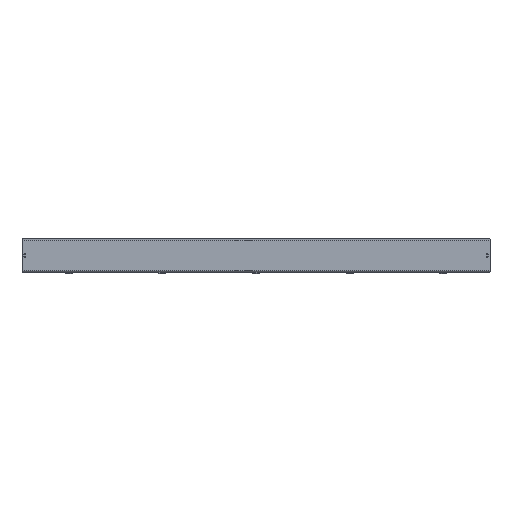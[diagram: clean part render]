
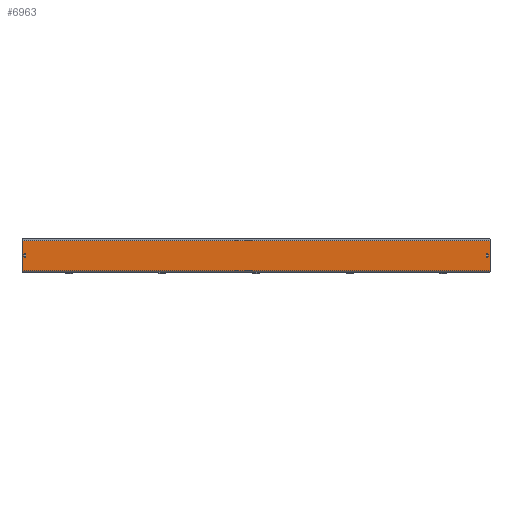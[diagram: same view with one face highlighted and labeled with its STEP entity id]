
A CAD part, front view. The second image highlights one B-rep face of the part: STEP entity #6963.
In plain terms, the highlighted planar face has unit normal (0, -1, 0).
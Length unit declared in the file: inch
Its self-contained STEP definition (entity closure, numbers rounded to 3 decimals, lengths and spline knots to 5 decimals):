
#47 = CARTESIAN_POINT ( 'NONE',  ( -30., 0., -1.94 ) ) ;
#97 = LINE ( 'NONE', #11236, #2271 ) ;
#174 = FACE_BOUND ( 'NONE', #7216, .T. ) ;
#220 = VERTEX_POINT ( 'NONE', #47 ) ;
#353 = DIRECTION ( 'NONE',  ( 0., 0., -1. ) ) ;
#389 = VECTOR ( 'NONE', #6444, 39.37008 ) ;
#404 = AXIS2_PLACEMENT_3D ( 'NONE', #2759, #9937, #9072 ) ;
#539 = DIRECTION ( 'NONE',  ( 0., 1., 0. ) ) ;
#754 = EDGE_CURVE ( 'NONE', #1841, #10367, #11724, .T. ) ;
#814 = CARTESIAN_POINT ( 'NONE',  ( 30., 0., -1.94 ) ) ;
#823 = AXIS2_PLACEMENT_3D ( 'NONE', #1280, #5001, #3151 ) ;
#834 = EDGE_CURVE ( 'NONE', #3400, #1881, #6683, .T. ) ;
#975 = CARTESIAN_POINT ( 'NONE',  ( -30., 0., 2.075 ) ) ;
#1098 = EDGE_CURVE ( 'NONE', #10367, #8586, #10043, .T. ) ;
#1280 = CARTESIAN_POINT ( 'NONE',  ( 29.625, 0., -0.09375 ) ) ;
#1412 = CARTESIAN_POINT ( 'NONE',  ( 29.625, 0., 0.09375 ) ) ;
#1778 = CARTESIAN_POINT ( 'NONE',  ( -29.5, 0., 0.09375 ) ) ;
#1841 = VERTEX_POINT ( 'NONE', #8559 ) ;
#1854 = AXIS2_PLACEMENT_3D ( 'NONE', #2835, #9146, #3747 ) ;
#1881 = VERTEX_POINT ( 'NONE', #6496 ) ;
#2017 = LINE ( 'NONE', #1778, #11332 ) ;
#2271 = VECTOR ( 'NONE', #353, 39.37008 ) ;
#2354 = DIRECTION ( 'NONE',  ( 0., 0., -1. ) ) ;
#2593 = LINE ( 'NONE', #6784, #9234 ) ;
#2759 = CARTESIAN_POINT ( 'NONE',  ( -29.625, 0., -0.09375 ) ) ;
#2835 = CARTESIAN_POINT ( 'NONE',  ( -29.625, 0., 0.09375 ) ) ;
#2865 = VERTEX_POINT ( 'NONE', #9516 ) ;
#3026 = ORIENTED_EDGE ( 'NONE', *, *, #9592, .T. ) ;
#3151 = DIRECTION ( 'NONE',  ( 0., 0., -1. ) ) ;
#3245 = CARTESIAN_POINT ( 'NONE',  ( -29.5, 0., -0.09375 ) ) ;
#3365 = DIRECTION ( 'NONE',  ( 0., 0., 1. ) ) ;
#3400 = VERTEX_POINT ( 'NONE', #3245 ) ;
#3537 = VERTEX_POINT ( 'NONE', #3563 ) ;
#3563 = CARTESIAN_POINT ( 'NONE',  ( -29.5, 0., 0.09375 ) ) ;
#3704 = CARTESIAN_POINT ( 'NONE',  ( 29.5, 0., 0.09375 ) ) ;
#3747 = DIRECTION ( 'NONE',  ( 0., 0., 1. ) ) ;
#3757 = DIRECTION ( 'NONE',  ( 0., 0., 1. ) ) ;
#4350 = ORIENTED_EDGE ( 'NONE', *, *, #8024, .T. ) ;
#4455 = LINE ( 'NONE', #11261, #6583 ) ;
#4482 = DIRECTION ( 'NONE',  ( 0., 0., -1. ) ) ;
#4521 = EDGE_CURVE ( 'NONE', #8112, #10890, #4455, .T. ) ;
#4692 = LINE ( 'NONE', #9909, #6810 ) ;
#4738 = CARTESIAN_POINT ( 'NONE',  ( -30., 0., 1.94 ) ) ;
#4740 = EDGE_CURVE ( 'NONE', #8728, #2865, #9102, .T. ) ;
#4766 = FACE_OUTER_BOUND ( 'NONE', #8665, .T. ) ;
#5001 = DIRECTION ( 'NONE',  ( 0., 1., 0. ) ) ;
#5009 = ORIENTED_EDGE ( 'NONE', *, *, #1098, .T. ) ;
#5292 = CARTESIAN_POINT ( 'NONE',  ( 30., 0., 1.94 ) ) ;
#5347 = DIRECTION ( 'NONE',  ( 0., -1., 0. ) ) ;
#5992 = LINE ( 'NONE', #814, #10462 ) ;
#6022 = CARTESIAN_POINT ( 'NONE',  ( -29.625, 0., 0.09375 ) ) ;
#6067 = VERTEX_POINT ( 'NONE', #4738 ) ;
#6070 = CARTESIAN_POINT ( 'NONE',  ( 30., 0., -1.94 ) ) ;
#6071 = ORIENTED_EDGE ( 'NONE', *, *, #8806, .F. ) ;
#6112 = ORIENTED_EDGE ( 'NONE', *, *, #6504, .T. ) ;
#6141 = CIRCLE ( 'NONE', #1854, 0.125 ) ;
#6239 = ORIENTED_EDGE ( 'NONE', *, *, #11082, .T. ) ;
#6444 = DIRECTION ( 'NONE',  ( 0., 0., 1. ) ) ;
#6451 = DIRECTION ( 'NONE',  ( 0., 0., -1. ) ) ;
#6496 = CARTESIAN_POINT ( 'NONE',  ( -29.75, 0., -0.09375 ) ) ;
#6504 = EDGE_CURVE ( 'NONE', #10890, #6067, #4692, .T. ) ;
#6529 = DIRECTION ( 'NONE',  ( 0., 1., 0. ) ) ;
#6566 = CARTESIAN_POINT ( 'NONE',  ( 29.625, 0., 0.09375 ) ) ;
#6583 = VECTOR ( 'NONE', #3365, 39.37008 ) ;
#6683 = CIRCLE ( 'NONE', #404, 0.125 ) ;
#6702 = ORIENTED_EDGE ( 'NONE', *, *, #11245, .T. ) ;
#6748 = ORIENTED_EDGE ( 'NONE', *, *, #7748, .F. ) ;
#6784 = CARTESIAN_POINT ( 'NONE',  ( -29.75, 0., 0.09375 ) ) ;
#6810 = VECTOR ( 'NONE', #8978, 39.37008 ) ;
#6896 = ORIENTED_EDGE ( 'NONE', *, *, #4740, .T. ) ;
#6918 = DIRECTION ( 'NONE',  ( 0., 0., 1. ) ) ;
#6934 = EDGE_LOOP ( 'NONE', ( #11376, #6239, #8836, #7049, #6702 ) ) ;
#6963 = ADVANCED_FACE ( 'NONE', ( #174, #9269, #4766 ), #7158, .T. ) ;
#7033 = CARTESIAN_POINT ( 'NONE',  ( 29.625, 0., 0.21875 ) ) ;
#7038 = CARTESIAN_POINT ( 'NONE',  ( 29.5, 0., -0.09375 ) ) ;
#7049 = ORIENTED_EDGE ( 'NONE', *, *, #834, .T. ) ;
#7158 = PLANE ( 'NONE',  #9449 ) ;
#7216 = EDGE_LOOP ( 'NONE', ( #4350, #6896, #3026, #8016, #5009 ) ) ;
#7423 = VECTOR ( 'NONE', #3757, 39.37008 ) ;
#7558 = CIRCLE ( 'NONE', #8473, 0.125 ) ;
#7680 = CIRCLE ( 'NONE', #11443, 0.125 ) ;
#7748 = EDGE_CURVE ( 'NONE', #220, #6067, #9804, .T. ) ;
#7759 = DIRECTION ( 'NONE',  ( 0., 1., 0. ) ) ;
#8016 = ORIENTED_EDGE ( 'NONE', *, *, #754, .T. ) ;
#8024 = EDGE_CURVE ( 'NONE', #8586, #8728, #7558, .T. ) ;
#8065 = DIRECTION ( 'NONE',  ( 0., 0., -1. ) ) ;
#8096 = DIRECTION ( 'NONE',  ( -1., 0., 0. ) ) ;
#8112 = VERTEX_POINT ( 'NONE', #6070 ) ;
#8282 = EDGE_CURVE ( 'NONE', #3537, #3400, #2017, .T. ) ;
#8340 = CARTESIAN_POINT ( 'NONE',  ( -29.625, 0., 0.21875 ) ) ;
#8473 = AXIS2_PLACEMENT_3D ( 'NONE', #1412, #7759, #2354 ) ;
#8559 = CARTESIAN_POINT ( 'NONE',  ( 29.75, 0., -0.09375 ) ) ;
#8586 = VERTEX_POINT ( 'NONE', #10369 ) ;
#8634 = EDGE_CURVE ( 'NONE', #8956, #9984, #7680, .T. ) ;
#8665 = EDGE_LOOP ( 'NONE', ( #6748, #6071, #8792, #6112 ) ) ;
#8728 = VERTEX_POINT ( 'NONE', #7033 ) ;
#8792 = ORIENTED_EDGE ( 'NONE', *, *, #4521, .T. ) ;
#8806 = EDGE_CURVE ( 'NONE', #8112, #220, #5992, .T. ) ;
#8836 = ORIENTED_EDGE ( 'NONE', *, *, #8282, .T. ) ;
#8956 = VERTEX_POINT ( 'NONE', #10046 ) ;
#8978 = DIRECTION ( 'NONE',  ( -1., 0., 0. ) ) ;
#9072 = DIRECTION ( 'NONE',  ( 0., 0., 1. ) ) ;
#9102 = CIRCLE ( 'NONE', #11734, 0.125 ) ;
#9146 = DIRECTION ( 'NONE',  ( 0., 1., 0. ) ) ;
#9234 = VECTOR ( 'NONE', #9496, 39.37008 ) ;
#9269 = FACE_BOUND ( 'NONE', #6934, .T. ) ;
#9449 = AXIS2_PLACEMENT_3D ( 'NONE', #11629, #5347, #8065 ) ;
#9496 = DIRECTION ( 'NONE',  ( 0., 0., 1. ) ) ;
#9516 = CARTESIAN_POINT ( 'NONE',  ( 29.75, 0., 0.09375 ) ) ;
#9592 = EDGE_CURVE ( 'NONE', #2865, #1841, #97, .T. ) ;
#9804 = LINE ( 'NONE', #975, #7423 ) ;
#9909 = CARTESIAN_POINT ( 'NONE',  ( 30., 0., 1.94 ) ) ;
#9937 = DIRECTION ( 'NONE',  ( 0., 1., 0. ) ) ;
#9984 = VERTEX_POINT ( 'NONE', #8340 ) ;
#10043 = LINE ( 'NONE', #3704, #389 ) ;
#10046 = CARTESIAN_POINT ( 'NONE',  ( -29.75, 0., 0.09375 ) ) ;
#10367 = VERTEX_POINT ( 'NONE', #7038 ) ;
#10369 = CARTESIAN_POINT ( 'NONE',  ( 29.5, 0., 0.09375 ) ) ;
#10462 = VECTOR ( 'NONE', #8096, 39.37008 ) ;
#10890 = VERTEX_POINT ( 'NONE', #5292 ) ;
#11082 = EDGE_CURVE ( 'NONE', #9984, #3537, #6141, .T. ) ;
#11236 = CARTESIAN_POINT ( 'NONE',  ( 29.75, 0., 0.09375 ) ) ;
#11245 = EDGE_CURVE ( 'NONE', #1881, #8956, #2593, .T. ) ;
#11261 = CARTESIAN_POINT ( 'NONE',  ( 30., 0., 2.075 ) ) ;
#11332 = VECTOR ( 'NONE', #4482, 39.37008 ) ;
#11376 = ORIENTED_EDGE ( 'NONE', *, *, #8634, .T. ) ;
#11443 = AXIS2_PLACEMENT_3D ( 'NONE', #6022, #539, #6918 ) ;
#11629 = CARTESIAN_POINT ( 'NONE',  ( 30., 0., 2.075 ) ) ;
#11724 = CIRCLE ( 'NONE', #823, 0.125 ) ;
#11734 = AXIS2_PLACEMENT_3D ( 'NONE', #6566, #6529, #6451 ) ;
